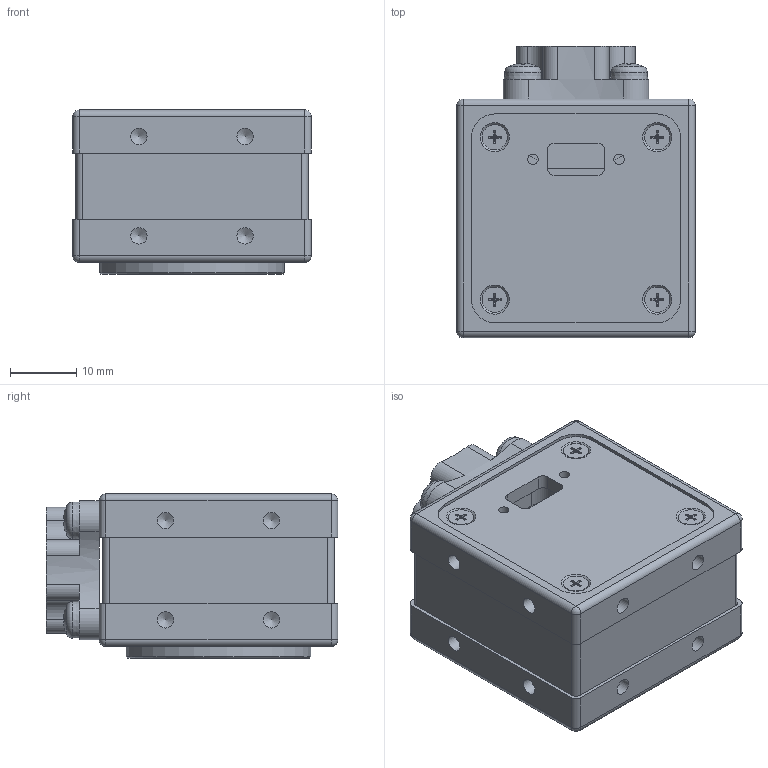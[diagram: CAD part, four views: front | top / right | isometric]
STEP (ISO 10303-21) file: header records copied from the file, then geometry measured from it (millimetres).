
FILE_DESCRIPTION(/* description */ (''),/* implementation_level */ '2;1');
FILE_NAME(/* name */ 'D:\HiDrive\1_Konstruktion\1_KUNDEN\TIS\154-13_MC36-Camera (Opto Precision)\154-13-9-00-00_MC36-AR CMOS_USB-Mini\KSM\154-13-90\KSM_154-13-90_(MC36_USB-Mini_CS-FP_13,3_ER-6,7).stp',/* time_stamp */ '2024-03-03T08:35:55+01:00',/* author */ ('khw'),/* organization */ ('TIS, Germany'),/* preprocessor_version */ 'ST-DEVELOPER v18.1',/* originating_system */ 'Autodesk Inventor 2021',/* authorisation */ '520025 mm^3');
FILE_SCHEMA (('AUTOMOTIVE_DESIGN { 1 0 10303 214 3 1 1 }'));
Length unit declared in the file: millimetre
Products named in the file (4): 3_Redu_154-13-90_(MC36_USB-Mini_CS-FP_13,3_ER-6,7); 2_Redu_154-13-90_(MC36_USB-Mini_CS-FP_13,3_ER-6,7); 154-13-1-00-03_Tripod Adapter; ISO 7045 - M3 x 6 - 4.8 - H
Assembly tree (6 placements, depth 2):
  3_Redu_154-13-90_(MC36_USB-Mini_CS-FP_13,3_ER-6,7)
    2_Redu_154-13-90_(MC36_USB-Mini_CS-FP_13,3_ER-6,7)
    154-13-1-00-03_Tripod Adapter
    ISO 7045 - M3 x 6 - 4.8 - H  x4
Bounding box: 36 x 44 x 24.75 mm (x, y, z)
Volume: 17262.7 mm3; surface area: 15996.9 mm2
Topology: 6 solids, 7 shells, 553 faces, 1435 edges, 925 vertices
Faces by surface type: plane 211, cylinder 154, cone 134, torus 42, sphere 12
Full cylindrical faces by diameter (mm): 1 x1, 1.567 x6, 1.755 x4, 2 x4, 2.3 x4, 2.459 x16, 2.729 x4, 3 x4, 3.4 x4, 3.8 x4, 4 x4, 4.917 x1, 4.978 x1, 5 x2, 20.2 x1, 21.9 x1, 22 x2, 24.536 x1, 25.8 x1, 26 x1, 27 x2, 28 x2, 28.05 x1, 28.5 x1
Entity records: 15071 total; most frequent: CARTESIAN_POINT 3076, DIRECTION 2470, ORIENTED_EDGE 2318, EDGE_CURVE 1159, AXIS2_PLACEMENT_3D 949, VERTEX_POINT 763, LINE 572, VECTOR 572
